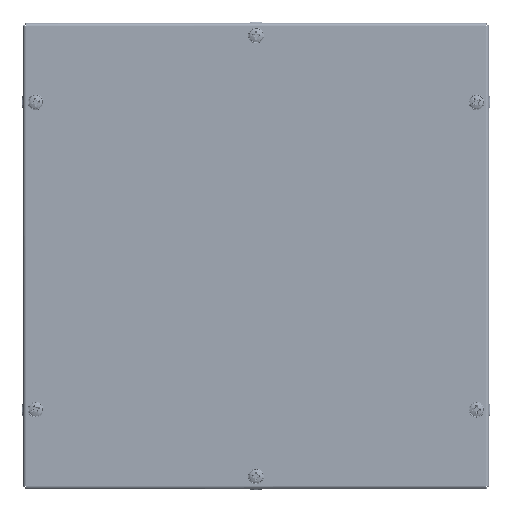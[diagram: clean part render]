
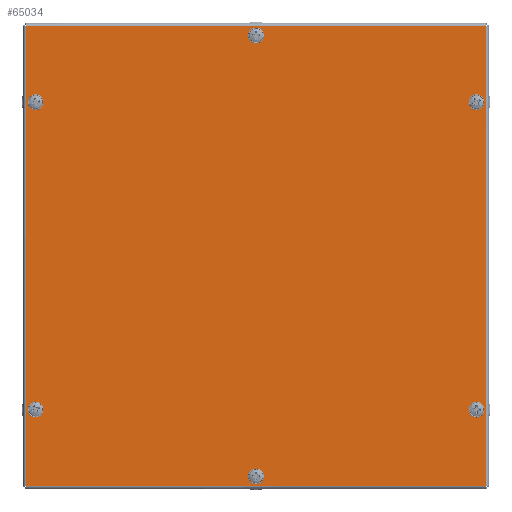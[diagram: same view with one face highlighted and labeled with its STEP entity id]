
A CAD part, top view. The second image highlights one B-rep face of the part: STEP entity #65034.
In plain terms, the highlighted planar face has unit normal (0, 0, 1).
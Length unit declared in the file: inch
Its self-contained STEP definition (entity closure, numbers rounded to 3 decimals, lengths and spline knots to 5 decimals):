
#64503=CARTESIAN_POINT('',(0.145,5.737,0.053));
#64504=VERTEX_POINT('',#64503);
#64505=CARTESIAN_POINT('',(0.,5.737,0.053));
#64506=DIRECTION('',(0.0,0.0,-1.0));
#64507=DIRECTION('',(-1.0,0.0,0.0));
#64508=AXIS2_PLACEMENT_3D('',#64505,#64506,#64507);
#64509=CIRCLE('',#64508,0.145);
#64510=EDGE_CURVE('',#64504,#64504,#64509,.T.);
#64531=CARTESIAN_POINT('',(0.145,-5.737,0.053));
#64532=VERTEX_POINT('',#64531);
#64533=CARTESIAN_POINT('',(0.,-5.737,0.053));
#64534=DIRECTION('',(0.0,0.0,-1.0));
#64535=DIRECTION('',(-1.0,0.0,0.0));
#64536=AXIS2_PLACEMENT_3D('',#64533,#64534,#64535);
#64537=CIRCLE('',#64536,0.145);
#64538=EDGE_CURVE('',#64532,#64532,#64537,.T.);
#64708=CARTESIAN_POINT('',(5.882,-4.,0.053));
#64709=VERTEX_POINT('',#64708);
#64710=CARTESIAN_POINT('',(5.737,-4.,0.053));
#64711=DIRECTION('',(0.0,0.0,-1.0));
#64712=DIRECTION('',(-1.0,0.0,0.0));
#64713=AXIS2_PLACEMENT_3D('',#64710,#64711,#64712);
#64714=CIRCLE('',#64713,0.145);
#64715=EDGE_CURVE('',#64709,#64709,#64714,.T.);
#64736=CARTESIAN_POINT('',(5.882,4.0,0.053));
#64737=VERTEX_POINT('',#64736);
#64738=CARTESIAN_POINT('',(5.737,4.0,0.053));
#64739=DIRECTION('',(0.0,0.0,-1.0));
#64740=DIRECTION('',(-1.0,0.0,0.0));
#64741=AXIS2_PLACEMENT_3D('',#64738,#64739,#64740);
#64742=CIRCLE('',#64741,0.145);
#64743=EDGE_CURVE('',#64737,#64737,#64742,.T.);
#64764=CARTESIAN_POINT('',(-5.592,-4.,0.053));
#64765=VERTEX_POINT('',#64764);
#64766=CARTESIAN_POINT('',(-5.737,-4.,0.053));
#64767=DIRECTION('',(0.0,0.0,-1.0));
#64768=DIRECTION('',(-1.0,0.0,0.0));
#64769=AXIS2_PLACEMENT_3D('',#64766,#64767,#64768);
#64770=CIRCLE('',#64769,0.145);
#64771=EDGE_CURVE('',#64765,#64765,#64770,.T.);
#64792=CARTESIAN_POINT('',(-5.592,4.0,0.053));
#64793=VERTEX_POINT('',#64792);
#64794=CARTESIAN_POINT('',(-5.737,4.0,0.053));
#64795=DIRECTION('',(0.0,0.0,-1.0));
#64796=DIRECTION('',(-1.0,0.0,0.0));
#64797=AXIS2_PLACEMENT_3D('',#64794,#64795,#64796);
#64798=CIRCLE('',#64797,0.145);
#64799=EDGE_CURVE('',#64793,#64793,#64798,.T.);
#64907=CARTESIAN_POINT('',(5.976,-5.976,0.053));
#64908=VERTEX_POINT('',#64907);
#64979=CARTESIAN_POINT('',(0.0,0.,0.053));
#64980=DIRECTION('',(0.0,0.0,1.0));
#64981=DIRECTION('',(1.0,0.0,0.0));
#64982=AXIS2_PLACEMENT_3D('',#64979,#64980,#64981);
#64983=PLANE('',#64982);
#64984=CARTESIAN_POINT('',(-5.976,-5.976,0.053));
#64985=VERTEX_POINT('',#64984);
#64986=CARTESIAN_POINT('',(-5.976,-5.976,0.053));
#64987=DIRECTION('',(1.0,0.0,0.0));
#64988=VECTOR('',#64987,11.952);
#64989=LINE('',#64986,#64988);
#64990=EDGE_CURVE('',#64985,#64908,#64989,.T.);
#64991=ORIENTED_EDGE('',*,*,#64990,.T.);
#64992=CARTESIAN_POINT('',(5.976,5.976,0.053));
#64993=VERTEX_POINT('',#64992);
#64994=CARTESIAN_POINT('',(5.976,-5.976,0.053));
#64995=DIRECTION('',(0.0,1.0,0.0));
#64996=VECTOR('',#64995,11.952);
#64997=LINE('',#64994,#64996);
#64998=EDGE_CURVE('',#64908,#64993,#64997,.T.);
#64999=ORIENTED_EDGE('',*,*,#64998,.T.);
#65000=CARTESIAN_POINT('',(-5.976,5.976,0.053));
#65001=VERTEX_POINT('',#65000);
#65002=CARTESIAN_POINT('',(5.976,5.976,0.053));
#65003=DIRECTION('',(-1.0,0.0,0.0));
#65004=VECTOR('',#65003,11.952);
#65005=LINE('',#65002,#65004);
#65006=EDGE_CURVE('',#64993,#65001,#65005,.T.);
#65007=ORIENTED_EDGE('',*,*,#65006,.T.);
#65008=CARTESIAN_POINT('',(-5.976,-5.976,0.053));
#65009=DIRECTION('',(0.0,1.0,0.0));
#65010=VECTOR('',#65009,11.952);
#65011=LINE('',#65008,#65010);
#65012=EDGE_CURVE('',#64985,#65001,#65011,.T.);
#65013=ORIENTED_EDGE('',*,*,#65012,.F.);
#65014=EDGE_LOOP('',(#64991,#64999,#65007,#65013));
#65015=FACE_OUTER_BOUND('',#65014,.T.);
#65016=ORIENTED_EDGE('',*,*,#64510,.T.);
#65017=EDGE_LOOP('',(#65016));
#65018=FACE_BOUND('',#65017,.T.);
#65019=ORIENTED_EDGE('',*,*,#64538,.T.);
#65020=EDGE_LOOP('',(#65019));
#65021=FACE_BOUND('',#65020,.T.);
#65022=ORIENTED_EDGE('',*,*,#64715,.T.);
#65023=EDGE_LOOP('',(#65022));
#65024=FACE_BOUND('',#65023,.T.);
#65025=ORIENTED_EDGE('',*,*,#64743,.T.);
#65026=EDGE_LOOP('',(#65025));
#65027=FACE_BOUND('',#65026,.T.);
#65028=ORIENTED_EDGE('',*,*,#64771,.T.);
#65029=EDGE_LOOP('',(#65028));
#65030=FACE_BOUND('',#65029,.T.);
#65031=ORIENTED_EDGE('',*,*,#64799,.T.);
#65032=EDGE_LOOP('',(#65031));
#65033=FACE_BOUND('',#65032,.T.);
#65034=ADVANCED_FACE('',(#65015,#65018,#65021,#65024,#65027,#65030,#65033),#64983,.T.);
